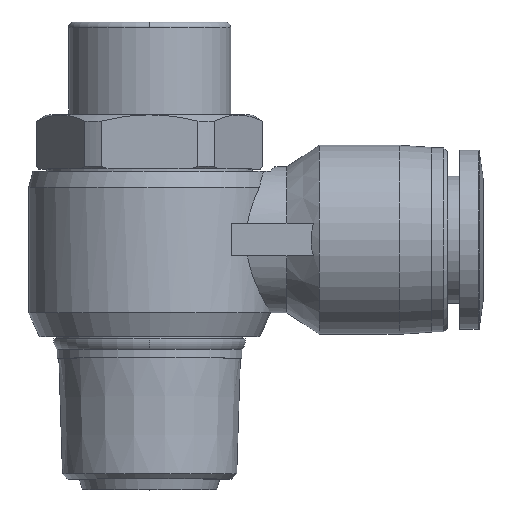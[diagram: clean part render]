
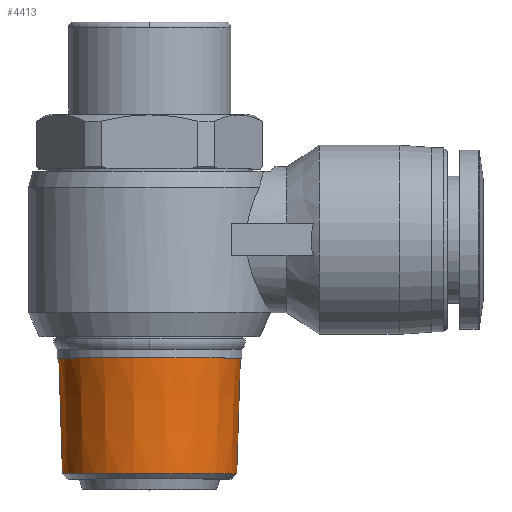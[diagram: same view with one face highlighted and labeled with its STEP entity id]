
A CAD part, top view. The second image highlights one B-rep face of the part: STEP entity #4413.
In plain terms, the highlighted conical face has half-angle 1.79 degrees and reference radius 8.233 mm.
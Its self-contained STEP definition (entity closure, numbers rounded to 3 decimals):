
#269 = CARTESIAN_POINT ( 'NONE',  ( -8.233, 4.95, 0. ) ) ;
#346 = VECTOR ( 'NONE', #2003, 1000. ) ;
#570 = VECTOR ( 'NONE', #638, 1000. ) ;
#638 = DIRECTION ( 'NONE',  ( -0.031, 1., 0. ) ) ;
#1095 = LINE ( 'NONE', #4086, #346 ) ;
#1127 = DIRECTION ( 'NONE',  ( -1., 0., 0. ) ) ;
#1156 = AXIS2_PLACEMENT_3D ( 'NONE', #3155, #1439, #3503 ) ;
#1290 = CONICAL_SURFACE ( 'NONE', #1810, 8.233, 0.031 ) ;
#1374 = CIRCLE ( 'NONE', #1156, 8.066 ) ;
#1428 = CARTESIAN_POINT ( 'NONE',  ( 0., 4.95, 0. ) ) ;
#1439 = DIRECTION ( 'NONE',  ( 0., 1., 0. ) ) ;
#1477 = EDGE_CURVE ( 'NONE', #2915, #2017, #3688, .T. ) ;
#1524 = ORIENTED_EDGE ( 'NONE', *, *, #2439, .T. ) ;
#1672 = CARTESIAN_POINT ( 'NONE',  ( 8.066, -0.4, 0. ) ) ;
#1724 = AXIS2_PLACEMENT_3D ( 'NONE', #3783, #3465, #3115 ) ;
#1810 = AXIS2_PLACEMENT_3D ( 'NONE', #1428, #1865, #1127 ) ;
#1865 = DIRECTION ( 'NONE',  ( 0., 1., 0. ) ) ;
#1893 = CARTESIAN_POINT ( 'NONE',  ( -8.066, -0.4, 0. ) ) ;
#1921 = EDGE_LOOP ( 'NONE', ( #1524, #2014, #2192, #2956 ) ) ;
#2003 = DIRECTION ( 'NONE',  ( 0.031, 1., 0. ) ) ;
#2014 = ORIENTED_EDGE ( 'NONE', *, *, #2460, .T. ) ;
#2017 = VERTEX_POINT ( 'NONE', #3789 ) ;
#2192 = ORIENTED_EDGE ( 'NONE', *, *, #1477, .F. ) ;
#2439 = EDGE_CURVE ( 'NONE', #2807, #3840, #1374, .T. ) ;
#2460 = EDGE_CURVE ( 'NONE', #3840, #2017, #1095, .T. ) ;
#2807 = VERTEX_POINT ( 'NONE', #1893 ) ;
#2840 = CARTESIAN_POINT ( 'NONE',  ( -8.4, 10.3, 0. ) ) ;
#2915 = VERTEX_POINT ( 'NONE', #2840 ) ;
#2956 = ORIENTED_EDGE ( 'NONE', *, *, #3105, .F. ) ;
#3105 = EDGE_CURVE ( 'NONE', #2807, #2915, #3778, .T. ) ;
#3115 = DIRECTION ( 'NONE',  ( -1., 0., 0. ) ) ;
#3155 = CARTESIAN_POINT ( 'NONE',  ( 0., -0.4, 0. ) ) ;
#3166 = FACE_OUTER_BOUND ( 'NONE', #1921, .T. ) ;
#3465 = DIRECTION ( 'NONE',  ( 0., 1., 0. ) ) ;
#3503 = DIRECTION ( 'NONE',  ( -1., 0., 0. ) ) ;
#3688 = CIRCLE ( 'NONE', #1724, 8.4 ) ;
#3778 = LINE ( 'NONE', #269, #570 ) ;
#3783 = CARTESIAN_POINT ( 'NONE',  ( 0., 10.3, 0. ) ) ;
#3789 = CARTESIAN_POINT ( 'NONE',  ( 8.4, 10.3, 0. ) ) ;
#3840 = VERTEX_POINT ( 'NONE', #1672 ) ;
#4086 = CARTESIAN_POINT ( 'NONE',  ( 8.233, 4.95, 0. ) ) ;
#4413 = ADVANCED_FACE ( 'NONE', ( #3166 ), #1290, .T. ) ;
